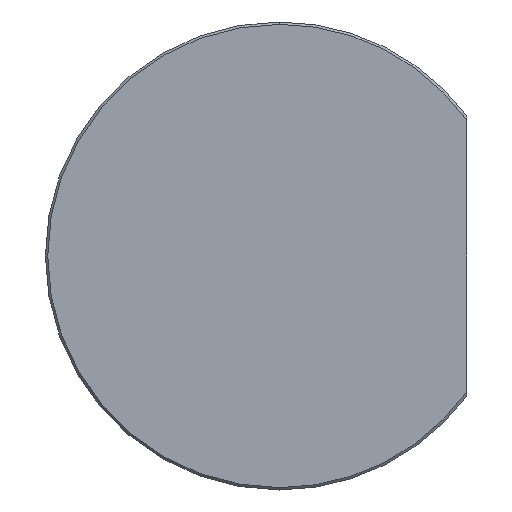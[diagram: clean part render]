
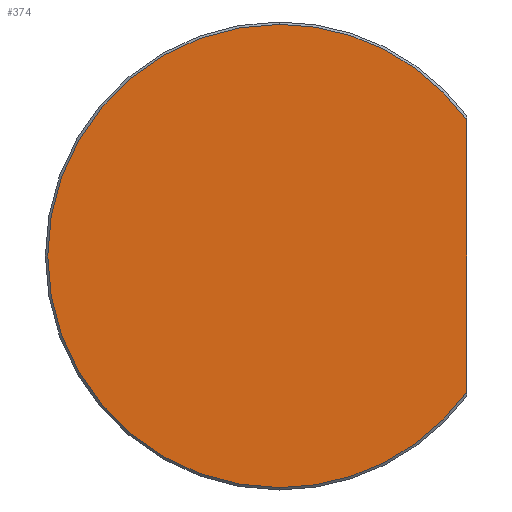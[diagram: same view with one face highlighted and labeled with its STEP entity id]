
A CAD part, front view. The second image highlights one B-rep face of the part: STEP entity #374.
In plain terms, the highlighted planar face has unit normal (0, -1, 0).
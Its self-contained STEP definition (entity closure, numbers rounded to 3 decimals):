
#9 = ORIENTED_EDGE ( 'NONE', *, *, #560, .T. ) ;
#10 = CARTESIAN_POINT ( 'NONE',  ( 0., 0., 0. ) ) ;
#24 = CIRCLE ( 'NONE', #490, 19.8 ) ;
#35 = CIRCLE ( 'NONE', #564, 19.8 ) ;
#80 = DIRECTION ( 'NONE',  ( 0., 0., -1. ) ) ;
#124 = DIRECTION ( 'NONE',  ( 0., -1., 0. ) ) ;
#125 = CARTESIAN_POINT ( 'NONE',  ( 0., 0., 0. ) ) ;
#127 = FACE_OUTER_BOUND ( 'NONE', #544, .T. ) ;
#161 = VERTEX_POINT ( 'NONE', #227 ) ;
#166 = EDGE_CURVE ( 'NONE', #301, #182, #35, .T. ) ;
#177 = ORIENTED_EDGE ( 'NONE', *, *, #166, .T. ) ;
#182 = VERTEX_POINT ( 'NONE', #205 ) ;
#188 = ORIENTED_EDGE ( 'NONE', *, *, #331, .T. ) ;
#205 = CARTESIAN_POINT ( 'NONE',  ( 0., 0., 19.8 ) ) ;
#218 = DIRECTION ( 'NONE',  ( 0., 0., 1. ) ) ;
#222 = CARTESIAN_POINT ( 'NONE',  ( 16., 0., -11.664 ) ) ;
#225 = PLANE ( 'NONE',  #573 ) ;
#227 = CARTESIAN_POINT ( 'NONE',  ( 0., 0., -19.8 ) ) ;
#245 = VECTOR ( 'NONE', #218, 1000. ) ;
#256 = CIRCLE ( 'NONE', #593, 19.8 ) ;
#269 = DIRECTION ( 'NONE',  ( 0., -1., 0. ) ) ;
#301 = VERTEX_POINT ( 'NONE', #566 ) ;
#305 = LINE ( 'NONE', #488, #245 ) ;
#331 = EDGE_CURVE ( 'NONE', #161, #376, #24, .T. ) ;
#359 = DIRECTION ( 'NONE',  ( 0., -1., 0. ) ) ;
#374 = ADVANCED_FACE ( 'NONE', ( #127 ), #225, .T. ) ;
#376 = VERTEX_POINT ( 'NONE', #222 ) ;
#377 = CARTESIAN_POINT ( 'NONE',  ( 0., 0., 0. ) ) ;
#407 = EDGE_CURVE ( 'NONE', #182, #161, #256, .T. ) ;
#452 = DIRECTION ( 'NONE',  ( 0., 0., -1. ) ) ;
#464 = ORIENTED_EDGE ( 'NONE', *, *, #407, .T. ) ;
#488 = CARTESIAN_POINT ( 'NONE',  ( 16., 0., -12. ) ) ;
#490 = AXIS2_PLACEMENT_3D ( 'NONE', #541, #124, #495 ) ;
#495 = DIRECTION ( 'NONE',  ( 0., 0., -1. ) ) ;
#496 = DIRECTION ( 'NONE',  ( 0., -1., 0. ) ) ;
#500 = DIRECTION ( 'NONE',  ( 0., 0., -1. ) ) ;
#541 = CARTESIAN_POINT ( 'NONE',  ( 0., 0., 0. ) ) ;
#544 = EDGE_LOOP ( 'NONE', ( #177, #464, #188, #9 ) ) ;
#560 = EDGE_CURVE ( 'NONE', #376, #301, #305, .T. ) ;
#564 = AXIS2_PLACEMENT_3D ( 'NONE', #125, #496, #80 ) ;
#566 = CARTESIAN_POINT ( 'NONE',  ( 16., 0., 11.664 ) ) ;
#573 = AXIS2_PLACEMENT_3D ( 'NONE', #10, #269, #452 ) ;
#593 = AXIS2_PLACEMENT_3D ( 'NONE', #377, #359, #500 ) ;
